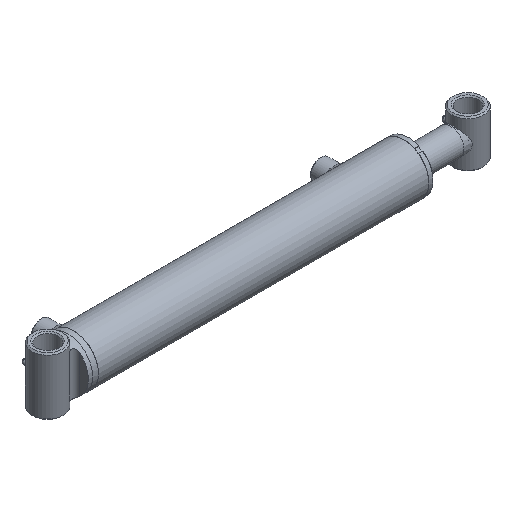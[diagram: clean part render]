
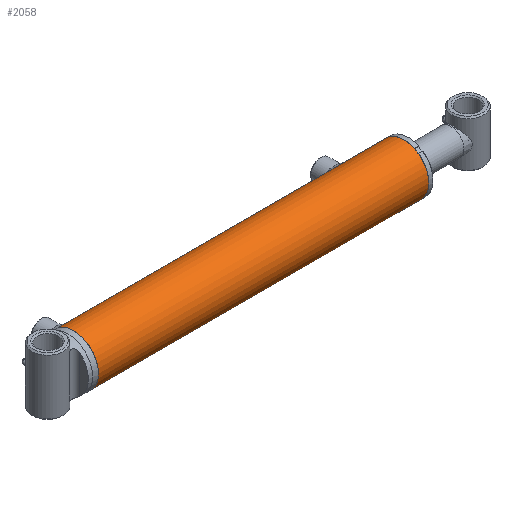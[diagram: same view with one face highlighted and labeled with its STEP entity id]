
A CAD part, isometric view. The second image highlights one B-rep face of the part: STEP entity #2058.
In plain terms, the highlighted cylindrical face has radius 30.163 mm (diameter 60.325 mm), a full revolution.
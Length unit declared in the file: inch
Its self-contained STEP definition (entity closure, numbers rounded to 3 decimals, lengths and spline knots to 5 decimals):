
#377=FACE_BOUND('',#700,.T.);
#378=FACE_BOUND('',#701,.T.);
#379=FACE_BOUND('',#702,.T.);
#500=FACE_OUTER_BOUND('',#699,.T.);
#699=EDGE_LOOP('',(#1636));
#700=EDGE_LOOP('',(#1637));
#701=EDGE_LOOP('',(#1638));
#702=EDGE_LOOP('',(#1639));
#908=CIRCLE('',#2250,1.1875);
#912=CIRCLE('',#2258,1.1875);
#1027=B_SPLINE_CURVE_WITH_KNOTS('',3,(#4713,#4714,#4715,#4716,#4717,#4718,
#4719,#4720,#4721,#4722,#4723,#4724,#4725,#4726,#4727,#4728,#4729,#4730,
#4731,#4732,#4733,#4734,#4735,#4736,#4737,#4738,#4739,#4740,#4741,#4742,
#4743,#4744,#4745,#4746),.UNSPECIFIED.,.T.,.F.,(4,2,2,2,2,2,2,2,2,2,2,2,
2,2,2,2,4),(0.,0.18872,0.37744,0.56616,0.75487,
0.94359,1.1323,1.32102,1.50975,1.69847,
1.88719,2.0759,2.26462,2.45333,2.64205,
2.83077,3.01949),.UNSPECIFIED.);
#1029=B_SPLINE_CURVE_WITH_KNOTS('',3,(#4886,#4887,#4888,#4889,#4890,#4891,
#4892,#4893,#4894,#4895,#4896,#4897,#4898,#4899,#4900,#4901,#4902,#4903,
#4904,#4905,#4906,#4907,#4908,#4909,#4910,#4911,#4912,#4913,#4914,#4915,
#4916,#4917,#4918,#4919),.UNSPECIFIED.,.T.,.F.,(4,2,2,2,2,2,2,2,2,2,2,2,
2,2,2,2,4),(0.,0.18872,0.37744,0.56616,0.75487,
0.94359,1.1323,1.32102,1.50975,1.69847,
1.88719,2.0759,2.26462,2.45333,2.64205,
2.83077,3.01949),.UNSPECIFIED.);
#1098=VERTEX_POINT('',#4712);
#1100=VERTEX_POINT('',#4885);
#1104=VERTEX_POINT('',#4929);
#1108=VERTEX_POINT('',#4941);
#1303=EDGE_CURVE('',#1098,#1098,#1027,.T.);
#1306=EDGE_CURVE('',#1100,#1100,#1029,.T.);
#1310=EDGE_CURVE('',#1104,#1104,#908,.T.);
#1314=EDGE_CURVE('',#1108,#1108,#912,.T.);
#1636=ORIENTED_EDGE('',*,*,#1314,.T.);
#1637=ORIENTED_EDGE('',*,*,#1303,.T.);
#1638=ORIENTED_EDGE('',*,*,#1306,.T.);
#1639=ORIENTED_EDGE('',*,*,#1310,.F.);
#1980=CYLINDRICAL_SURFACE('',#2260,1.1875);
#2058=ADVANCED_FACE('',(#500,#377,#378,#379),#1980,.T.);
#2250=AXIS2_PLACEMENT_3D('',#4930,#2627,#2628);
#2258=AXIS2_PLACEMENT_3D('',#4942,#2643,#2644);
#2260=AXIS2_PLACEMENT_3D('',#4944,#2647,#2648);
#2627=DIRECTION('center_axis',(1.,0.,0.));
#2628=DIRECTION('ref_axis',(0.,-1.,0.));
#2643=DIRECTION('center_axis',(1.,0.,0.));
#2644=DIRECTION('ref_axis',(0.,-1.,0.));
#2647=DIRECTION('center_axis',(1.,0.,0.));
#2648=DIRECTION('ref_axis',(0.,-1.,0.));
#4712=CARTESIAN_POINT('',(5.94094,1.17107,-0.19685));
#4713=CARTESIAN_POINT('Ctrl Pts',(5.94094,1.17107,-0.19685));
#4714=CARTESIAN_POINT('Ctrl Pts',(5.96571,1.17107,-0.19685));
#4715=CARTESIAN_POINT('Ctrl Pts',(5.9921,1.17194,-0.19189));
#4716=CARTESIAN_POINT('Ctrl Pts',(6.04058,1.17505,-0.17179));
#4717=CARTESIAN_POINT('Ctrl Pts',(6.06269,1.17725,-0.15665));
#4718=CARTESIAN_POINT('Ctrl Pts',(6.09759,1.18137,-0.12174));
#4719=CARTESIAN_POINT('Ctrl Pts',(6.11273,1.18356,-0.09964));
#4720=CARTESIAN_POINT('Ctrl Pts',(6.13284,1.18665,-0.05115));
#4721=CARTESIAN_POINT('Ctrl Pts',(6.1378,1.1875,-0.02477));
#4722=CARTESIAN_POINT('Ctrl Pts',(6.1378,1.1875,0.02477));
#4723=CARTESIAN_POINT('Ctrl Pts',(6.13284,1.18665,0.05115));
#4724=CARTESIAN_POINT('Ctrl Pts',(6.11273,1.18356,0.09964));
#4725=CARTESIAN_POINT('Ctrl Pts',(6.09759,1.18137,0.12174));
#4726=CARTESIAN_POINT('Ctrl Pts',(6.06269,1.17725,0.15665));
#4727=CARTESIAN_POINT('Ctrl Pts',(6.04058,1.17505,0.17179));
#4728=CARTESIAN_POINT('Ctrl Pts',(5.9921,1.17194,0.19189));
#4729=CARTESIAN_POINT('Ctrl Pts',(5.96571,1.17107,0.19685));
#4730=CARTESIAN_POINT('Ctrl Pts',(5.91618,1.17107,0.19685));
#4731=CARTESIAN_POINT('Ctrl Pts',(5.88979,1.17194,0.19189));
#4732=CARTESIAN_POINT('Ctrl Pts',(5.84131,1.17505,0.17179));
#4733=CARTESIAN_POINT('Ctrl Pts',(5.8192,1.17725,0.15665));
#4734=CARTESIAN_POINT('Ctrl Pts',(5.7843,1.18137,0.12174));
#4735=CARTESIAN_POINT('Ctrl Pts',(5.76916,1.18356,0.09964));
#4736=CARTESIAN_POINT('Ctrl Pts',(5.74905,1.18665,0.05115));
#4737=CARTESIAN_POINT('Ctrl Pts',(5.74409,1.1875,0.02477));
#4738=CARTESIAN_POINT('Ctrl Pts',(5.74409,1.1875,-0.02477));
#4739=CARTESIAN_POINT('Ctrl Pts',(5.74905,1.18665,-0.05115));
#4740=CARTESIAN_POINT('Ctrl Pts',(5.76916,1.18356,-0.09964));
#4741=CARTESIAN_POINT('Ctrl Pts',(5.7843,1.18137,-0.12174));
#4742=CARTESIAN_POINT('Ctrl Pts',(5.8192,1.17725,-0.15665));
#4743=CARTESIAN_POINT('Ctrl Pts',(5.84131,1.17505,-0.17179));
#4744=CARTESIAN_POINT('Ctrl Pts',(5.88979,1.17194,-0.19189));
#4745=CARTESIAN_POINT('Ctrl Pts',(5.91618,1.17107,-0.19685));
#4746=CARTESIAN_POINT('Ctrl Pts',(5.94094,1.17107,-0.19685));
#4885=CARTESIAN_POINT('',(-7.35827,1.17107,-0.19685));
#4886=CARTESIAN_POINT('Ctrl Pts',(-7.35827,1.17107,-0.19685));
#4887=CARTESIAN_POINT('Ctrl Pts',(-7.3335,1.17107,-0.19685));
#4888=CARTESIAN_POINT('Ctrl Pts',(-7.30712,1.17194,-0.19189));
#4889=CARTESIAN_POINT('Ctrl Pts',(-7.25863,1.17505,-0.17179));
#4890=CARTESIAN_POINT('Ctrl Pts',(-7.23653,1.17725,-0.15665));
#4891=CARTESIAN_POINT('Ctrl Pts',(-7.20162,1.18137,-0.12174));
#4892=CARTESIAN_POINT('Ctrl Pts',(-7.18648,1.18356,-0.09964));
#4893=CARTESIAN_POINT('Ctrl Pts',(-7.16638,1.18665,-0.05115));
#4894=CARTESIAN_POINT('Ctrl Pts',(-7.16142,1.1875,-0.02477));
#4895=CARTESIAN_POINT('Ctrl Pts',(-7.16142,1.1875,0.02477));
#4896=CARTESIAN_POINT('Ctrl Pts',(-7.16638,1.18665,0.05115));
#4897=CARTESIAN_POINT('Ctrl Pts',(-7.18648,1.18356,0.09964));
#4898=CARTESIAN_POINT('Ctrl Pts',(-7.20162,1.18137,0.12174));
#4899=CARTESIAN_POINT('Ctrl Pts',(-7.23653,1.17725,0.15665));
#4900=CARTESIAN_POINT('Ctrl Pts',(-7.25863,1.17505,0.17179));
#4901=CARTESIAN_POINT('Ctrl Pts',(-7.30712,1.17194,0.19189));
#4902=CARTESIAN_POINT('Ctrl Pts',(-7.3335,1.17107,0.19685));
#4903=CARTESIAN_POINT('Ctrl Pts',(-7.38303,1.17107,0.19685));
#4904=CARTESIAN_POINT('Ctrl Pts',(-7.40942,1.17194,0.19189));
#4905=CARTESIAN_POINT('Ctrl Pts',(-7.45791,1.17505,0.17179));
#4906=CARTESIAN_POINT('Ctrl Pts',(-7.48001,1.17725,0.15665));
#4907=CARTESIAN_POINT('Ctrl Pts',(-7.51491,1.18137,0.12174));
#4908=CARTESIAN_POINT('Ctrl Pts',(-7.53006,1.18356,0.09964));
#4909=CARTESIAN_POINT('Ctrl Pts',(-7.55016,1.18665,0.05115));
#4910=CARTESIAN_POINT('Ctrl Pts',(-7.55512,1.1875,0.02477));
#4911=CARTESIAN_POINT('Ctrl Pts',(-7.55512,1.1875,-0.02477));
#4912=CARTESIAN_POINT('Ctrl Pts',(-7.55016,1.18665,-0.05115));
#4913=CARTESIAN_POINT('Ctrl Pts',(-7.53006,1.18356,-0.09964));
#4914=CARTESIAN_POINT('Ctrl Pts',(-7.51491,1.18137,-0.12174));
#4915=CARTESIAN_POINT('Ctrl Pts',(-7.48001,1.17725,-0.15665));
#4916=CARTESIAN_POINT('Ctrl Pts',(-7.45791,1.17505,-0.17179));
#4917=CARTESIAN_POINT('Ctrl Pts',(-7.40942,1.17194,-0.19189));
#4918=CARTESIAN_POINT('Ctrl Pts',(-7.38303,1.17107,-0.19685));
#4919=CARTESIAN_POINT('Ctrl Pts',(-7.35827,1.17107,-0.19685));
#4929=CARTESIAN_POINT('',(7.94882,1.1875,0.));
#4930=CARTESIAN_POINT('Origin',(7.94882,0.,0.));
#4941=CARTESIAN_POINT('',(-7.78494,1.1875,0.));
#4942=CARTESIAN_POINT('Origin',(-7.78494,0.,0.));
#4944=CARTESIAN_POINT('Origin',(0.,0.,0.));
